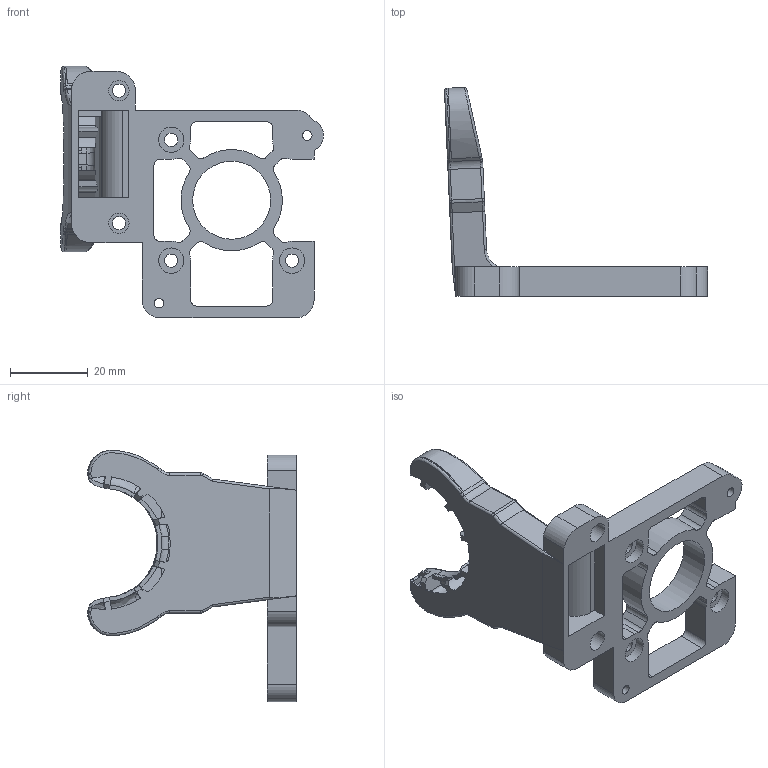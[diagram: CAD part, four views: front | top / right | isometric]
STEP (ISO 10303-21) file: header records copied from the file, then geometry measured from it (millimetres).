
FILE_DESCRIPTION(/* description */ (''),/* implementation_level */ '2;1');
FILE_NAME(/* name */ 'C:/Users/jwmue/3D Objects/RCii/RCii Fan Shroud 1.step',/* time_stamp */ '2021-01-04T12:58:17-06:00',/* author */ (''),/* organization */ (''),/* preprocessor_version */ 'ST-DEVELOPER v18.1',/* originating_system */ 'Autodesk Translation Framework v9.7.1.1290',/* authorisation */ '');
FILE_SCHEMA (('AUTOMOTIVE_DESIGN { 1 0 10303 214 3 1 1 }'));
Length unit declared in the file: millimetre
Products named in the file (1): RCii Fan Shroud 1
Bounding box: 67.46 x 53.52 x 64.48 mm (x, y, z)
Volume: 16641.4 mm3; surface area: 16150.2 mm2
Topology: 1 solids, 1 shells, 320 faces, 941 edges, 615 vertices
Faces by surface type: plane 122, cylinder 97, bspline 93, torus 8
Full cylindrical faces by diameter (mm): 2.459 x2, 3.4 x5, 5.2 x2, 6.5 x3, 20 x1
Entity records: 19985 total; most frequent: CARTESIAN_POINT 11751, ORIENTED_EDGE 1882, DIRECTION 1485, EDGE_CURVE 941, VERTEX_POINT 615, LINE 499, VECTOR 499, AXIS2_PLACEMENT_3D 493
